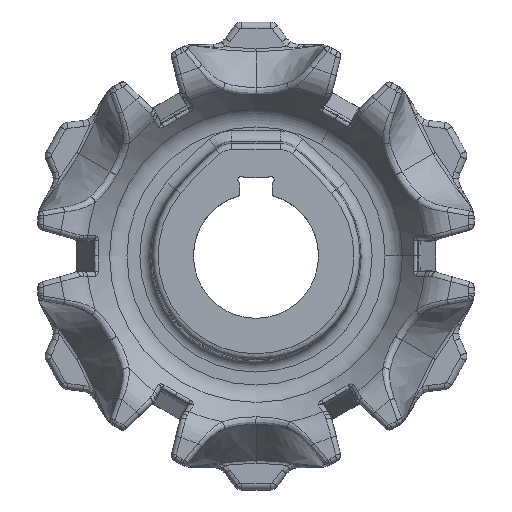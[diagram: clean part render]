
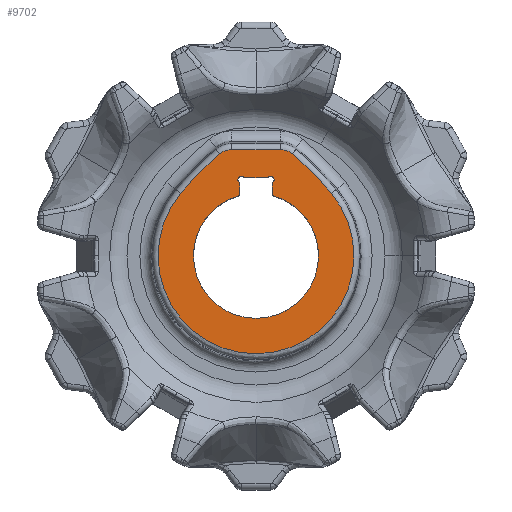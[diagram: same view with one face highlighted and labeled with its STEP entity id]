
A CAD part, top view. The second image highlights one B-rep face of the part: STEP entity #9702.
In plain terms, the highlighted planar face has unit normal (0, 0, 1).
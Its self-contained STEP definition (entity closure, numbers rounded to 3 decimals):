
#8556=FACE_BOUND('',#12276,.T.);
#8557=FACE_BOUND('',#12277,.T.);
#9702=ADVANCED_FACE('',(#8556,#8557),#10816,.T.);
#10816=PLANE('',#26735);
#12276=EDGE_LOOP('',(#15774,#15775,#15776,#15777,#15778,#15779,#15780));
#12277=EDGE_LOOP('',(#15781,#15782,#15783,#15784,#15785,#15786,#15787,#15788,
#15789,#15790,#15791,#15792,#15793,#15794));
#13436=CIRCLE('',#26722,3.799);
#13437=CIRCLE('',#26723,3.799);
#13438=CIRCLE('',#26724,64.135);
#13439=CIRCLE('',#26725,20.131);
#13440=CIRCLE('',#26726,20.131);
#13441=CIRCLE('',#26727,64.135);
#13442=CIRCLE('',#26728,0.75);
#13443=CIRCLE('',#26729,0.75);
#13444=CIRCLE('',#26730,12.85);
#13445=CIRCLE('',#26731,12.85);
#13446=CIRCLE('',#26732,12.85);
#13447=CIRCLE('',#26733,0.75);
#13448=CIRCLE('',#26734,0.75);
#14055=LINE('',#33955,#14665);
#14056=LINE('',#33968,#14666);
#14057=LINE('',#33971,#14667);
#14058=LINE('',#33973,#14668);
#14059=LINE('',#33979,#14669);
#14060=LINE('',#33981,#14670);
#14061=LINE('',#33989,#14671);
#14062=LINE('',#33991,#14672);
#14665=VECTOR('',#27800,1.);
#14666=VECTOR('',#27815,1.);
#14667=VECTOR('',#27816,1.);
#14668=VECTOR('',#27817,1.);
#14669=VECTOR('',#27822,1.);
#14670=VECTOR('',#27823,1.);
#14671=VECTOR('',#27830,1.);
#14672=VECTOR('',#27831,1.);
#15774=ORIENTED_EDGE('',*,*,#22671,.F.);
#15775=ORIENTED_EDGE('',*,*,#22670,.T.);
#15776=ORIENTED_EDGE('',*,*,#22672,.F.);
#15777=ORIENTED_EDGE('',*,*,#22673,.F.);
#15778=ORIENTED_EDGE('',*,*,#22674,.F.);
#15779=ORIENTED_EDGE('',*,*,#22675,.F.);
#15780=ORIENTED_EDGE('',*,*,#22676,.F.);
#15781=ORIENTED_EDGE('',*,*,#22677,.F.);
#15782=ORIENTED_EDGE('',*,*,#22678,.F.);
#15783=ORIENTED_EDGE('',*,*,#22679,.F.);
#15784=ORIENTED_EDGE('',*,*,#22680,.F.);
#15785=ORIENTED_EDGE('',*,*,#22681,.F.);
#15786=ORIENTED_EDGE('',*,*,#22682,.F.);
#15787=ORIENTED_EDGE('',*,*,#22683,.F.);
#15788=ORIENTED_EDGE('',*,*,#22684,.F.);
#15789=ORIENTED_EDGE('',*,*,#22685,.F.);
#15790=ORIENTED_EDGE('',*,*,#22686,.F.);
#15791=ORIENTED_EDGE('',*,*,#22687,.F.);
#15792=ORIENTED_EDGE('',*,*,#22688,.F.);
#15793=ORIENTED_EDGE('',*,*,#22689,.F.);
#15794=ORIENTED_EDGE('',*,*,#22690,.F.);
#20997=VERTEX_POINT('',#33949);
#20998=VERTEX_POINT('',#33954);
#20999=VERTEX_POINT('',#33958);
#21000=VERTEX_POINT('',#33960);
#21001=VERTEX_POINT('',#33962);
#21002=VERTEX_POINT('',#33964);
#21003=VERTEX_POINT('',#33966);
#21004=VERTEX_POINT('',#33969);
#21005=VERTEX_POINT('',#33970);
#21006=VERTEX_POINT('',#33972);
#21007=VERTEX_POINT('',#33974);
#21008=VERTEX_POINT('',#33976);
#21009=VERTEX_POINT('',#33978);
#21010=VERTEX_POINT('',#33980);
#21011=VERTEX_POINT('',#33982);
#21012=VERTEX_POINT('',#33984);
#21013=VERTEX_POINT('',#33986);
#21014=VERTEX_POINT('',#33988);
#21015=VERTEX_POINT('',#33990);
#21016=VERTEX_POINT('',#33992);
#21017=VERTEX_POINT('',#33994);
#22670=EDGE_CURVE('',#20997,#20998,#14055,.T.);
#22671=EDGE_CURVE('',#20997,#20999,#13436,.T.);
#22672=EDGE_CURVE('',#21000,#20998,#13437,.T.);
#22673=EDGE_CURVE('',#21001,#21000,#13438,.T.);
#22674=EDGE_CURVE('',#21002,#21001,#13439,.T.);
#22675=EDGE_CURVE('',#21003,#21002,#13440,.T.);
#22676=EDGE_CURVE('',#20999,#21003,#13441,.T.);
#22677=EDGE_CURVE('',#21004,#21005,#14056,.T.);
#22678=EDGE_CURVE('',#21006,#21004,#14057,.T.);
#22679=EDGE_CURVE('',#21007,#21006,#14058,.T.);
#22680=EDGE_CURVE('',#21008,#21007,#13442,.T.);
#22681=EDGE_CURVE('',#21009,#21008,#13443,.T.);
#22682=EDGE_CURVE('',#21010,#21009,#14059,.T.);
#22683=EDGE_CURVE('',#21011,#21010,#14060,.T.);
#22684=EDGE_CURVE('',#21012,#21011,#13444,.T.);
#22685=EDGE_CURVE('',#21013,#21012,#13445,.T.);
#22686=EDGE_CURVE('',#21014,#21013,#13446,.T.);
#22687=EDGE_CURVE('',#21015,#21014,#14061,.T.);
#22688=EDGE_CURVE('',#21016,#21015,#14062,.T.);
#22689=EDGE_CURVE('',#21017,#21016,#13447,.T.);
#22690=EDGE_CURVE('',#21005,#21017,#13448,.T.);
#26722=AXIS2_PLACEMENT_3D('',#33957,#27803,#27804);
#26723=AXIS2_PLACEMENT_3D('',#33959,#27805,#27806);
#26724=AXIS2_PLACEMENT_3D('',#33961,#27807,#27808);
#26725=AXIS2_PLACEMENT_3D('',#33963,#27809,#27810);
#26726=AXIS2_PLACEMENT_3D('',#33965,#27811,#27812);
#26727=AXIS2_PLACEMENT_3D('',#33967,#27813,#27814);
#26728=AXIS2_PLACEMENT_3D('',#33975,#27818,#27819);
#26729=AXIS2_PLACEMENT_3D('',#33977,#27820,#27821);
#26730=AXIS2_PLACEMENT_3D('',#33983,#27824,#27825);
#26731=AXIS2_PLACEMENT_3D('',#33985,#27826,#27827);
#26732=AXIS2_PLACEMENT_3D('',#33987,#27828,#27829);
#26733=AXIS2_PLACEMENT_3D('',#33993,#27832,#27833);
#26734=AXIS2_PLACEMENT_3D('',#33995,#27834,#27835);
#26735=AXIS2_PLACEMENT_3D('',#33996,#27836,#27837);
#27800=DIRECTION('',(-1.,0.,0.));
#27803=DIRECTION('',(0.,0.,-1.));
#27804=DIRECTION('',(0.,1.,0.));
#27805=DIRECTION('',(0.,0.,-1.));
#27806=DIRECTION('',(-0.644,0.765,0.));
#27807=DIRECTION('',(0.,0.,-1.));
#27808=DIRECTION('',(-0.77,0.638,0.));
#27809=DIRECTION('',(0.,0.,-1.));
#27810=DIRECTION('',(0.77,-0.638,0.));
#27811=DIRECTION('',(0.,0.,-1.));
#27812=DIRECTION('',(0.77,0.638,0.));
#27813=DIRECTION('',(0.,0.,-1.));
#27814=DIRECTION('',(0.644,0.765,0.));
#27815=DIRECTION('',(-0.8,0.6,0.));
#27816=DIRECTION('',(-1.,0.,0.));
#27817=DIRECTION('',(-0.8,-0.6,0.));
#27818=DIRECTION('',(0.,0.,1.));
#27819=DIRECTION('',(1.,0.,0.));
#27820=DIRECTION('',(0.,0.,1.));
#27821=DIRECTION('',(0.866,-0.5,0.));
#27822=DIRECTION('',(0.5,0.866,0.));
#27823=DIRECTION('',(0.,1.,0.));
#27824=DIRECTION('',(0.,0.,1.));
#27825=DIRECTION('',(1.,0.,0.));
#27826=DIRECTION('',(0.,0.,1.));
#27827=DIRECTION('',(-1.,0.,0.));
#27828=DIRECTION('',(0.,0.,1.));
#27829=DIRECTION('',(-0.261,0.965,0.));
#27830=DIRECTION('',(0.,-1.,0.));
#27831=DIRECTION('',(0.5,-0.866,0.));
#27832=DIRECTION('',(0.,0.,1.));
#27833=DIRECTION('',(-1.,0.,0.));
#27834=DIRECTION('',(0.,0.,1.));
#27835=DIRECTION('',(0.6,0.8,0.));
#27836=DIRECTION('',(0.,0.,1.));
#27837=DIRECTION('',(0.,-1.,0.));
#33949=CARTESIAN_POINT('',(5.009,21.845,18.6));
#33954=CARTESIAN_POINT('',(-5.009,21.845,18.6));
#33955=CARTESIAN_POINT('',(5.009,21.845,18.6));
#33957=CARTESIAN_POINT('',(5.009,18.046,18.6));
#33958=CARTESIAN_POINT('',(7.457,20.951,18.6));
#33959=CARTESIAN_POINT('',(-5.009,18.046,18.6));
#33960=CARTESIAN_POINT('',(-7.457,20.951,18.6));
#33961=CARTESIAN_POINT('',(33.867,-28.097,18.6));
#33962=CARTESIAN_POINT('',(-15.493,12.854,18.6));
#33963=CARTESIAN_POINT('',(0.,0.,18.6));
#33964=CARTESIAN_POINT('',(15.493,-12.854,18.6));
#33965=CARTESIAN_POINT('',(0.,0.,18.6));
#33966=CARTESIAN_POINT('',(15.493,12.854,18.6));
#33967=CARTESIAN_POINT('',(-33.867,-28.097,18.6));
#33968=CARTESIAN_POINT('',(-2.325,16.1,18.6));
#33969=CARTESIAN_POINT('',(-2.325,16.1,18.6));
#33970=CARTESIAN_POINT('',(-2.525,16.25,18.6));
#33971=CARTESIAN_POINT('',(2.325,16.1,18.6));
#33972=CARTESIAN_POINT('',(2.325,16.1,18.6));
#33973=CARTESIAN_POINT('',(2.525,16.25,18.6));
#33974=CARTESIAN_POINT('',(2.525,16.25,18.6));
#33975=CARTESIAN_POINT('',(2.975,15.65,18.6));
#33976=CARTESIAN_POINT('',(3.725,15.65,18.6));
#33977=CARTESIAN_POINT('',(2.975,15.65,18.6));
#33978=CARTESIAN_POINT('',(3.625,15.275,18.6));
#33979=CARTESIAN_POINT('',(3.35,14.8,18.6));
#33980=CARTESIAN_POINT('',(3.35,14.8,18.6));
#33981=CARTESIAN_POINT('',(3.35,12.406,18.6));
#33982=CARTESIAN_POINT('',(3.35,12.406,18.6));
#33983=CARTESIAN_POINT('',(0.,0.,18.6));
#33984=CARTESIAN_POINT('',(12.85,0.,18.6));
#33985=CARTESIAN_POINT('',(0.,0.,18.6));
#33986=CARTESIAN_POINT('',(-12.85,0.,18.6));
#33987=CARTESIAN_POINT('',(0.,0.,18.6));
#33988=CARTESIAN_POINT('',(-3.35,12.406,18.6));
#33989=CARTESIAN_POINT('',(-3.35,14.8,18.6));
#33990=CARTESIAN_POINT('',(-3.35,14.8,18.6));
#33991=CARTESIAN_POINT('',(-3.625,15.275,18.6));
#33992=CARTESIAN_POINT('',(-3.625,15.275,18.6));
#33993=CARTESIAN_POINT('',(-2.975,15.65,18.6));
#33994=CARTESIAN_POINT('',(-3.725,15.65,18.6));
#33995=CARTESIAN_POINT('',(-2.975,15.65,18.6));
#33996=CARTESIAN_POINT('',(0.,0.,18.6));
